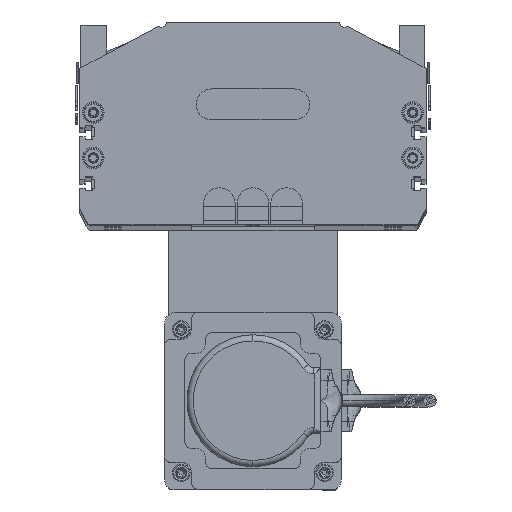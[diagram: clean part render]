
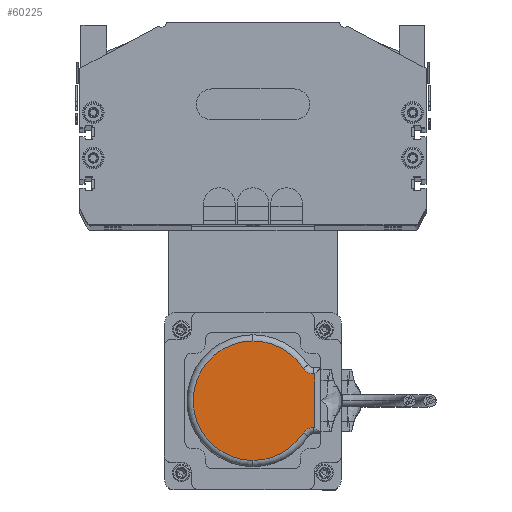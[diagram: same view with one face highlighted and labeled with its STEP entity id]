
A CAD part, top view. The second image highlights one B-rep face of the part: STEP entity #60225.
In plain terms, the highlighted planar face has unit normal (0, 0, 1).
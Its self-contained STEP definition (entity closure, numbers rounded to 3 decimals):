
#7047 = CARTESIAN_POINT ( 'NONE',  ( 33., 33., 26. ) ) ;
#7051 = DIRECTION ( 'NONE',  ( 1., 0., 0. ) ) ;
#7052 = DIRECTION ( 'NONE',  ( 0., 0., 1. ) ) ;
#7062 = AXIS2_PLACEMENT_3D ( 'NONE', #7047, #7052, #7051 ) ;
#7070 = CIRCLE ( 'NONE', #7062, 29. ) ;
#7103 = CARTESIAN_POINT ( 'NONE',  ( 62., 33., 26. ) ) ;
#7153 = CIRCLE ( 'NONE', #7161, 29. ) ;
#7154 = CARTESIAN_POINT ( 'NONE',  ( 17.257, 57.355, 26. ) ) ;
#7160 = CARTESIAN_POINT ( 'NONE',  ( 33., 33., 26. ) ) ;
#7161 = AXIS2_PLACEMENT_3D ( 'NONE', #7160, #7209, #7208 ) ;
#7168 = CARTESIAN_POINT ( 'NONE',  ( 4., 33., 26. ) ) ;
#7177 = PLANE ( 'NONE',  #7199 ) ;
#7179 = AXIS2_PLACEMENT_3D ( 'NONE', #7259, #7245, #7289 ) ;
#7185 = DIRECTION ( 'NONE',  ( 0., 0., 1. ) ) ;
#7186 = CARTESIAN_POINT ( 'NONE',  ( 33., 33., 26. ) ) ;
#7189 = CARTESIAN_POINT ( 'NONE',  ( 20., 62.394, 26. ) ) ;
#7199 = AXIS2_PLACEMENT_3D ( 'NONE', #7186, #7185, #7233 ) ;
#7201 = FACE_OUTER_BOUND ( 'NONE', #60280, .T. ) ;
#7208 = DIRECTION ( 'NONE',  ( 1., 0., 0. ) ) ;
#7209 = DIRECTION ( 'NONE',  ( 0., 0., 1. ) ) ;
#7210 = CARTESIAN_POINT ( 'NONE',  ( 33., 33., 26. ) ) ;
#7215 = CARTESIAN_POINT ( 'NONE',  ( 48.743, 57.355, 26. ) ) ;
#7218 = CIRCLE ( 'NONE', #7264, 29. ) ;
#7232 = CARTESIAN_POINT ( 'NONE',  ( 20., 63., 26. ) ) ;
#7233 = DIRECTION ( 'NONE',  ( 1., 0., 0. ) ) ;
#7237 = CARTESIAN_POINT ( 'NONE',  ( 46., 63., 26. ) ) ;
#7239 = CIRCLE ( 'NONE', #7179, 6. ) ;
#7245 = DIRECTION ( 'NONE',  ( 0., 0., 1. ) ) ;
#7246 = CARTESIAN_POINT ( 'NONE',  ( 46., 62.394, 26. ) ) ;
#7259 = CARTESIAN_POINT ( 'NONE',  ( 52., 62.394, 26. ) ) ;
#7262 = DIRECTION ( 'NONE',  ( 1., 0., 0. ) ) ;
#7263 = DIRECTION ( 'NONE',  ( 0., 0., 1. ) ) ;
#7264 = AXIS2_PLACEMENT_3D ( 'NONE', #7210, #7263, #7262 ) ;
#7269 = DIRECTION ( 'NONE',  ( 0., 0., 1. ) ) ;
#7271 = CARTESIAN_POINT ( 'NONE',  ( 14., 62.394, 26. ) ) ;
#7285 = LINE ( 'NONE', #7319, #7318 ) ;
#7289 = DIRECTION ( 'NONE',  ( 1., 0., 0. ) ) ;
#7307 = DIRECTION ( 'NONE',  ( 1., 0., 0. ) ) ;
#7312 = AXIS2_PLACEMENT_3D ( 'NONE', #7271, #7269, #7307 ) ;
#7314 = CIRCLE ( 'NONE', #7312, 6. ) ;
#7317 = DIRECTION ( 'NONE',  ( 0., 1., 0. ) ) ;
#7318 = VECTOR ( 'NONE', #7317, 1000. ) ;
#7319 = CARTESIAN_POINT ( 'NONE',  ( 46., 33., 26. ) ) ;
#7533 = DIRECTION ( 'NONE',  ( 0., -1., 0. ) ) ;
#7534 = CARTESIAN_POINT ( 'NONE',  ( 20., 33., 26. ) ) ;
#7536 = DIRECTION ( 'NONE',  ( -1., 0., 0. ) ) ;
#7537 = VECTOR ( 'NONE', #7536, 1000. ) ;
#7538 = CARTESIAN_POINT ( 'NONE',  ( 17.5, 63., 26. ) ) ;
#7539 = LINE ( 'NONE', #7538, #7537 ) ;
#7541 = VECTOR ( 'NONE', #7533, 1000. ) ;
#7548 = LINE ( 'NONE', #7534, #7541 ) ;
#60164 = EDGE_CURVE ( 'NONE', #60203, #60180, #7070, .T. ) ;
#60180 = VERTEX_POINT ( 'NONE', #7103 ) ;
#60199 = VERTEX_POINT ( 'NONE', #7154 ) ;
#60201 = EDGE_CURVE ( 'NONE', #60199, #60203, #7153, .T. ) ;
#60203 = VERTEX_POINT ( 'NONE', #7168 ) ;
#60223 = ORIENTED_EDGE ( 'NONE', *, *, #60236, .T. ) ;
#60225 = ADVANCED_FACE ( 'NONE', ( #7201 ), #7177, .T. ) ;
#60227 = VERTEX_POINT ( 'NONE', #7189 ) ;
#60229 = ORIENTED_EDGE ( 'NONE', *, *, #60260, .F. ) ;
#60231 = VERTEX_POINT ( 'NONE', #7232 ) ;
#60232 = VERTEX_POINT ( 'NONE', #7215 ) ;
#60234 = ORIENTED_EDGE ( 'NONE', *, *, #60201, .T. ) ;
#60236 = EDGE_CURVE ( 'NONE', #60180, #60232, #7218, .T. ) ;
#60238 = ORIENTED_EDGE ( 'NONE', *, *, #60164, .T. ) ;
#60239 = ORIENTED_EDGE ( 'NONE', *, *, #60248, .T. ) ;
#60241 = EDGE_CURVE ( 'NONE', #60250, #60232, #7239, .T. ) ;
#60242 = VERTEX_POINT ( 'NONE', #7237 ) ;
#60246 = ORIENTED_EDGE ( 'NONE', *, *, #60241, .F. ) ;
#60248 = EDGE_CURVE ( 'NONE', #60250, #60242, #7285, .T. ) ;
#60250 = VERTEX_POINT ( 'NONE', #7246 ) ;
#60253 = ORIENTED_EDGE ( 'NONE', *, *, #60366, .T. ) ;
#60260 = EDGE_CURVE ( 'NONE', #60199, #60227, #7314, .T. ) ;
#60276 = ORIENTED_EDGE ( 'NONE', *, *, #60359, .T. ) ;
#60280 = EDGE_LOOP ( 'NONE', ( #60229, #60234, #60238, #60223, #60246, #60239, #60276, #60253 ) ) ;
#60359 = EDGE_CURVE ( 'NONE', #60242, #60231, #7539, .T. ) ;
#60366 = EDGE_CURVE ( 'NONE', #60231, #60227, #7548, .T. ) ;
